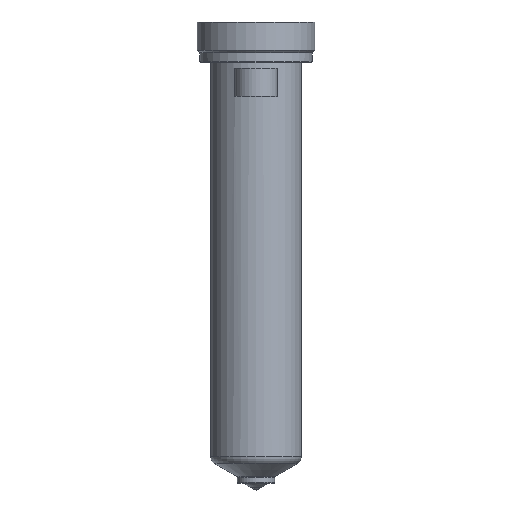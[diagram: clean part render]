
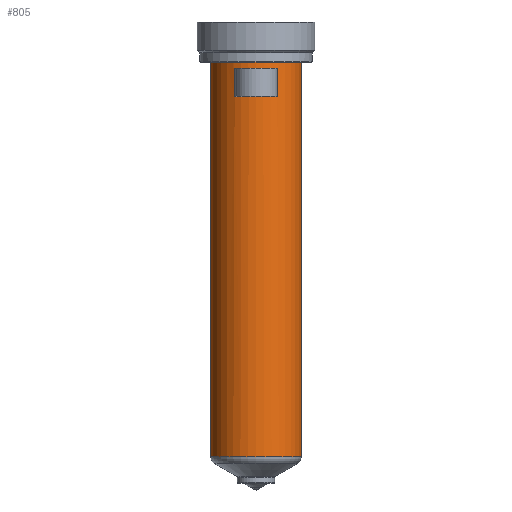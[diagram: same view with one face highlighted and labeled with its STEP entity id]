
A CAD part, top view. The second image highlights one B-rep face of the part: STEP entity #805.
In plain terms, the highlighted cylindrical face has radius 17 mm (diameter 34 mm), a partial arc.
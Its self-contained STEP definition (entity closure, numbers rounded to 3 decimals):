
#191=DIRECTION('',(0.,-1.,0.));
#192=VECTOR('',#191,147.506);
#193=CARTESIAN_POINT('',(17.,0.,0.));
#194=LINE('',#193,#192);
#195=CARTESIAN_POINT('',(0.,-147.506,0.));
#196=DIRECTION('',(0.,1.,0.));
#197=DIRECTION('',(-1.,0.,0.));
#198=AXIS2_PLACEMENT_3D('',#195,#196,#197);
#200=DIRECTION('',(0.,1.,0.));
#201=VECTOR('',#200,147.506);
#202=CARTESIAN_POINT('',(-17.,-147.506,0.));
#203=LINE('',#202,#201);
#204=CARTESIAN_POINT('',(0.,0.,0.));
#205=DIRECTION('',(0.,1.,0.));
#206=DIRECTION('',(-1.,0.,0.));
#207=AXIS2_PLACEMENT_3D('',#204,#205,#206);
#371=DIRECTION('',(0.,1.,0.));
#372=VECTOR('',#371,10.5);
#373=CARTESIAN_POINT('',(-8.,-13.,15.));
#374=LINE('',#373,#372);
#375=CARTESIAN_POINT('',(0.,-13.,0.));
#376=DIRECTION('',(0.,1.,0.));
#377=DIRECTION('',(-0.471,0.,0.882));
#378=AXIS2_PLACEMENT_3D('',#375,#376,#377);
#401=CARTESIAN_POINT('',(0.,-2.5,0.));
#402=DIRECTION('',(0.,-1.,0.));
#403=DIRECTION('',(0.471,0.,0.882));
#404=AXIS2_PLACEMENT_3D('',#401,#402,#403);
#419=DIRECTION('',(0.,1.,0.));
#420=VECTOR('',#419,10.5);
#421=CARTESIAN_POINT('',(8.,-13.,15.));
#422=LINE('',#421,#420);
#480=CARTESIAN_POINT('',(-17.,0.,0.));
#481=CARTESIAN_POINT('',(17.,0.,0.));
#482=VERTEX_POINT('',#480);
#483=VERTEX_POINT('',#481);
#492=CARTESIAN_POINT('',(-8.,-2.5,15.));
#493=VERTEX_POINT('',#492);
#494=CARTESIAN_POINT('',(8.,-2.5,15.));
#495=VERTEX_POINT('',#494);
#532=CARTESIAN_POINT('',(17.,-147.506,0.));
#533=VERTEX_POINT('',#532);
#542=CARTESIAN_POINT('',(-17.,-147.506,0.));
#543=VERTEX_POINT('',#542);
#564=CARTESIAN_POINT('',(-8.,-13.,15.));
#565=CARTESIAN_POINT('',(8.,-13.,15.));
#566=VERTEX_POINT('',#564);
#567=VERTEX_POINT('',#565);
#783=CARTESIAN_POINT('',(0.,16.4,0.));
#784=DIRECTION('',(0.,-1.,0.));
#785=DIRECTION('',(-1.,0.,0.));
#786=AXIS2_PLACEMENT_3D('',#783,#784,#785);
#787=CYLINDRICAL_SURFACE('',#786,17.);
#788=ORIENTED_EDGE('',*,*,#777,.T.);
#790=ORIENTED_EDGE('',*,*,#789,.F.);
#791=ORIENTED_EDGE('',*,*,#773,.T.);
#792=ORIENTED_EDGE('',*,*,#763,.T.);
#793=EDGE_LOOP('',(#788,#790,#791,#792));
#794=FACE_OUTER_BOUND('',#793,.F.);
#796=ORIENTED_EDGE('',*,*,#795,.F.);
#798=ORIENTED_EDGE('',*,*,#797,.T.);
#800=ORIENTED_EDGE('',*,*,#799,.T.);
#802=ORIENTED_EDGE('',*,*,#801,.T.);
#803=EDGE_LOOP('',(#796,#798,#800,#802));
#804=FACE_BOUND('',#803,.F.);
#805=ADVANCED_FACE('',(#794,#804),#787,.T.);
#199=CIRCLE('',#198,17.);
#208=CIRCLE('',#207,17.);
#379=CIRCLE('',#378,17.);
#405=CIRCLE('',#404,17.);
#763=EDGE_CURVE('',#482,#483,#208,.T.);
#773=EDGE_CURVE('',#543,#482,#203,.T.);
#777=EDGE_CURVE('',#483,#533,#194,.T.);
#789=EDGE_CURVE('',#543,#533,#199,.T.);
#795=EDGE_CURVE('',#566,#493,#374,.T.);
#797=EDGE_CURVE('',#566,#567,#379,.T.);
#799=EDGE_CURVE('',#567,#495,#422,.T.);
#801=EDGE_CURVE('',#495,#493,#405,.T.);
